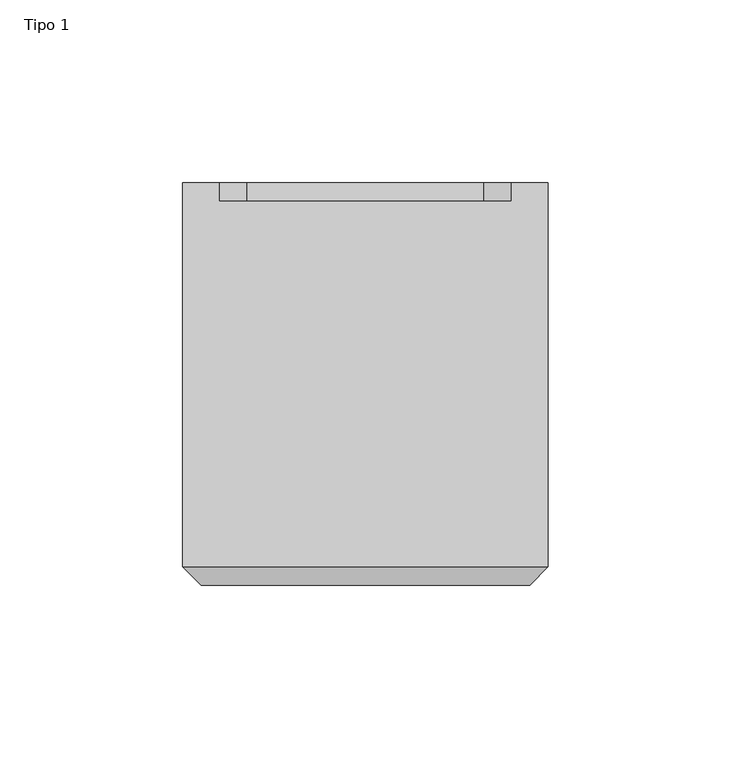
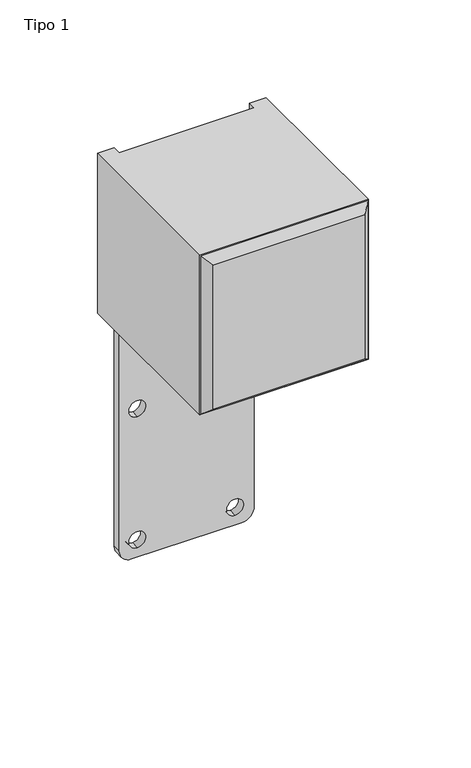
"""IFC4 building model written with IfcOpenShell, lengths in millimetres: proxy geometry, Ercole ANGOLARE verticale rovescio : Tipo 1."""

import ifcopenshell
import ifcopenshell.guid

model = None  # the IFC model being written
_history = None  # IfcOwnerHistory: only IFC2X3 demands one
_inside = {}  # id of a spatial element -> (the spatial element, [elements in it])
_under = {}  # id of a project, library or spatial element -> (it, [spatial elements below it])
_declared = {}  # id of a project -> (the project, [libraries it declares])
_typed = {}  # id of a type object -> (the type object, [elements of that type])
_made_of = {}  # id of a material, layer set ... -> (it, [elements and type objects made of it])


def new_model(schema):
    """Start an empty IFC model of exactly this schema.

    Asked for "IFC4X3", IfcOpenShell would pick the latest addendum, in which some entities
    have other attributes; the version numbers below select the first issue.
    IFC2X3 requires an IfcOwnerHistory on every rooted entity: one is made here for all.
    """
    global model, _history
    if schema == "IFC4X3":
        model = ifcopenshell.file(schema_version=(4, 3, 0, 0))
    else:
        model = ifcopenshell.file(schema=schema)
    _inside.clear()
    _under.clear()
    _declared.clear()
    _typed.clear()
    _made_of.clear()
    _history = None
    if model.schema == "IFC2X3":
        org = make("IfcOrganization", Name="unknown")
        user = make(
            "IfcPersonAndOrganization",
            ThePerson=make("IfcPerson", FamilyName="unknown"),
            TheOrganization=org,
        )
        app = make(
            "IfcApplication",
            ApplicationDeveloper=org,
            Version="unknown",
            ApplicationFullName="unknown",
            ApplicationIdentifier="unknown",
        )
        _history = make(
            "IfcOwnerHistory",
            OwningUser=user,
            OwningApplication=app,
            ChangeAction="ADDED",
            CreationDate=0,
        )
    return model


def make(cls, **values):
    """One entity of the class cls with the attributes given. An attribute that is None is left unset."""
    return model.create_entity(
        cls, **{name: value for name, value in values.items() if value is not None}
    )


def rooted(cls, **values):
    """An entity with a GlobalId (a new one), such as an element, a storey or a relation."""
    return make(cls, GlobalId=ifcopenshell.guid.new(), OwnerHistory=_history, **values)


def si_unit(unit_type, name, prefix=None):
    """IfcSIUnit, for example si_unit("LENGTHUNIT", "METRE", prefix="MILLI")."""
    return make("IfcSIUnit", UnitType=unit_type, Prefix=prefix, Name=name)


def assignment(units):
    """IfcUnitAssignment: the units of a project."""
    return None if units is None else make("IfcUnitAssignment", Units=units)


def point(xyz):
    """IfcCartesianPoint."""
    return None if xyz is None else make("IfcCartesianPoint", Coordinates=xyz)


def direction(xyz):
    """IfcDirection."""
    return None if xyz is None else make("IfcDirection", DirectionRatios=xyz)


def frame(location, z_axis=None, x_axis=None):
    """IfcAxis2Placement3D, a coordinate frame: its origin and axes. An axis left out is left unset."""
    return make(
        "IfcAxis2Placement3D",
        Location=point(location),
        Axis=direction(z_axis),
        RefDirection=direction(x_axis),
    )


def frame_2d(location, x_axis=None):
    """IfcAxis2Placement2D, a coordinate frame in the plane: its origin and x axis."""
    return make(
        "IfcAxis2Placement2D", Location=point(location), RefDirection=direction(x_axis)
    )


def origin():
    """The frame at (0, 0, 0) with its axes left unset."""
    return frame((0.0, 0.0, 0.0))


def place(relative_to, where):
    """IfcLocalPlacement: puts the frame where relative to a parent placement (None: the world)."""
    return make(
        "IfcLocalPlacement", PlacementRelTo=relative_to, RelativePlacement=where
    )


def context(
    kind, dimensions, precision=None, world=None, true_north=None, identifier=None
):
    """IfcGeometricRepresentationContext, for example the 3D "Model" context."""
    return make(
        "IfcGeometricRepresentationContext",
        ContextIdentifier=identifier,
        ContextType=kind,
        CoordinateSpaceDimension=dimensions,
        Precision=precision,
        WorldCoordinateSystem=world,
        TrueNorth=true_north,
    )


def project(units=None, contexts=None):
    """IfcProject with its units and contexts."""
    return rooted(
        "IfcProject",
        Name="project",
        RepresentationContexts=contexts,
        UnitsInContext=assignment(units),
    )


def spatial(cls, under=None, at=None, **own):
    """A site, building, storey or space (cls), placed at a placement, below another one or the project."""
    s = rooted(cls, ObjectPlacement=at, **own)
    if under is not None:
        _under.setdefault(under.id(), (under, []))[1].append(s)
    return s


def polyline(points):
    """IfcPolyline through the points."""
    return make("IfcPolyline", Points=[point(p) for p in points])


def circle_curve(where, radius):
    """IfcCircle in the frame where."""
    return make("IfcCircle", Position=where, Radius=radius)


def trimmed(basis, trim1, trim2, sense, master):
    """IfcTrimmedCurve: the piece of a basis curve between two trims."""
    return make(
        "IfcTrimmedCurve",
        BasisCurve=basis,
        Trim1=trim1,
        Trim2=trim2,
        SenseAgreement=sense,
        MasterRepresentation=master,
    )


def segment(curve, same_sense, transition):
    """IfcCompositeCurveSegment."""
    return make(
        "IfcCompositeCurveSegment",
        Transition=transition,
        SameSense=same_sense,
        ParentCurve=curve,
    )


def composite_curve(segments, self_intersect=None):
    """IfcCompositeCurve: segments joined end to end."""
    return make("IfcCompositeCurve", Segments=segments, SelfIntersect=self_intersect)


def outline(outer, holes=None, kind="AREA"):
    """IfcArbitraryClosedProfileDef: a profile drawn as a closed curve; with holes, ...WithVoids."""
    if holes is None:
        return make("IfcArbitraryClosedProfileDef", ProfileType=kind, OuterCurve=outer)
    return make(
        "IfcArbitraryProfileDefWithVoids",
        ProfileType=kind,
        OuterCurve=outer,
        InnerCurves=holes,
    )


def extrude(swept, where, along, depth):
    """IfcExtrudedAreaSolid: the profile swept, set in the frame where, extruded along a direction by depth."""
    return make(
        "IfcExtrudedAreaSolid",
        SweptArea=swept,
        Position=where,
        ExtrudedDirection=direction(along),
        Depth=depth,
    )


def faces_of(points, faces, orient=None, outer=None):
    """IfcFace entities. A face is a list of loops; a loop is a list of indices into points, from 0.

    orient and outer hold one flag for each loop. By default every Orientation is true, the
    first loop of a face is its IfcFaceOuterBound and the others are IfcFaceBound.
    """
    made = []
    for i, loops in enumerate(faces):
        bounds = []
        for j, loop in enumerate(loops):
            is_outer = j == 0 if outer is None else outer[i][j]
            bounds.append(
                make(
                    "IfcFaceOuterBound" if is_outer else "IfcFaceBound",
                    Bound=make("IfcPolyLoop", Polygon=[points[k] for k in loop]),
                    Orientation=True if orient is None else orient[i][j],
                )
            )
        made.append(make("IfcFace", Bounds=bounds))
    return made


def faceted_brep(points, faces, orient=None, outer=None, voids=None):
    """IfcFacetedBrep: a solid bounded by flat faces; with voids (closed shells), ...WithVoids."""
    shared = [point(p) for p in points]
    hull = make("IfcClosedShell", CfsFaces=faces_of(shared, faces, orient, outer))
    if voids is None:
        return make("IfcFacetedBrep", Outer=hull)
    return make(
        "IfcFacetedBrepWithVoids",
        Outer=hull,
        Voids=[
            make(cls, CfsFaces=faces_of(shared, fs, o, b)) for cls, fs, o, b in voids
        ],
    )


def shape(context_of_items, identifier, shape_type, items):
    """IfcShapeRepresentation: the items that make up one representation, for example the "Body"."""
    return make(
        "IfcShapeRepresentation",
        ContextOfItems=context_of_items,
        RepresentationIdentifier=identifier,
        RepresentationType=shape_type,
        Items=items,
    )


def source(mapping_origin, context_of_items, identifier, shape_type, items):
    """IfcRepresentationMap: a shape defined once, which mapped items show again and again."""
    return make(
        "IfcRepresentationMap",
        MappingOrigin=mapping_origin,
        MappedRepresentation=shape(context_of_items, identifier, shape_type, items),
    )


def transform(
    local_origin,
    x_axis=None,
    y_axis=None,
    z_axis=None,
    scale=None,
    scale2=None,
    scale3=None,
    uniform=True,
):
    """IfcCartesianTransformationOperator3D, or its non-uniform kind. x_axis, y_axis, z_axis: its Axis1, 2, 3."""
    if uniform:
        return make(
            "IfcCartesianTransformationOperator3D",
            Axis1=direction(x_axis),
            Axis2=direction(y_axis),
            LocalOrigin=point(local_origin),
            Scale=scale,
            Axis3=direction(z_axis),
        )
    return make(
        "IfcCartesianTransformationOperator3DnonUniform",
        Axis1=direction(x_axis),
        Axis2=direction(y_axis),
        LocalOrigin=point(local_origin),
        Scale=scale,
        Axis3=direction(z_axis),
        Scale2=scale2,
        Scale3=scale3,
    )


def mapped(mapping_source, mapping_target):
    """IfcMappedItem: shows the shape of a source again, moved by a transform."""
    return make(
        "IfcMappedItem", MappingSource=mapping_source, MappingTarget=mapping_target
    )


def made_of(thing, what):
    """Note that an element or type object is made of a material, layer set ...; save() writes the relation."""
    if what is not None:
        _made_of.setdefault(what.id(), (what, []))[1].append(thing)
    return thing


def element(
    cls,
    number,
    at=None,
    inside=None,
    cuts=None,
    type_object=None,
    material=None,
    context=None,
    identifier="Body",
    shape_type=None,
    held_by="IfcProductDefinitionShape",
    body=None,
    shapes=None,
    **own,
):
    """One element of the class cls, such as IfcWall. Its Tag is "e" and its number.

    at: its placement. inside: the storey or other place that contains it. cuts: it is an
    opening in that element (IfcRelVoidsElement). A single representation is given by context,
    identifier, shape_type and body (its items); several are given by shapes. held_by: the class
    of the entity that holds the representations. save() writes the other relations.
    """
    e = rooted(cls, Tag="e%d" % number, ObjectPlacement=at, **own)
    if body is not None:
        shapes = [shape(context, identifier, shape_type, body)]
    if shapes is not None:
        e.Representation = make(held_by, Representations=shapes)
    if inside is not None:
        _inside.setdefault(inside.id(), (inside, []))[1].append(e)
    if cuts is not None:
        rooted(
            "IfcRelVoidsElement", RelatingBuildingElement=cuts, RelatedOpeningElement=e
        )
    if type_object is not None:
        _typed.setdefault(type_object.id(), (type_object, []))[1].append(e)
    return made_of(e, material)


def aggregate(whole, parts):
    """IfcRelAggregates: a whole, such as a stair, and the parts it consists of."""
    return rooted("IfcRelAggregates", RelatingObject=whole, RelatedObjects=parts)


def save(model, path):
    """Write the relations noted so far, then the file.

    IfcRelAggregates (storeys below a building ...), IfcRelContainedInSpatialStructure (elements
    in a storey), IfcRelDefinesByType, IfcRelAssociatesMaterial and IfcRelDeclares: one each for
    every whole, place, type object, material and project.
    """
    for whole, parts in _under.values():
        aggregate(whole, parts)
    for where, things in _inside.values():
        rooted(
            "IfcRelContainedInSpatialStructure",
            RelatedElements=things,
            RelatingStructure=where,
        )
    for kind, things in _typed.values():
        rooted("IfcRelDefinesByType", RelatedObjects=things, RelatingType=kind)
    for what, things in _made_of.values():
        rooted("IfcRelAssociatesMaterial", RelatedObjects=things, RelatingMaterial=what)
    for by, libraries in _declared.values():
        rooted("IfcRelDeclares", RelatingContext=by, RelatedDefinitions=libraries)
    model.write(path)


def tipo_1_62a81992(model_context):
    return source(origin(), model_context, "Body", "SolidModel", [
        extrude(outline(polyline([(175.0, -175.0), (75.0, -175.0), (75.0, -70.0), (85.0000271, -70.0), (85.0000271, -75.0), (164.9999729, -75.0), (164.9999729, -70.0), (175.0, -70.0), (175.0, -175.0)])), frame((0.0, 0.0, 629.7029033), z_axis=(0.0, 0.0, 1.0), x_axis=(1.0, 0.0, 0.0)), (0.0, 0.0, 1.0), 100.0),
        faceted_brep([(80.0, -180.0, 634.7029033), (170.0, -180.0, 634.7029033), (170.0, -180.0, 724.7029033), (80.0, -180.0, 724.7029033), (75.0, -175.0, 629.7029033), (75.0, -175.0, 729.7029033), (175.0, -175.0, 729.7029033), (175.0, -175.0, 629.7029033)], [[[0, 1, 2, 3]], [[4, 5, 6, 7]], [[5, 4, 0, 3]], [[6, 5, 3, 2]], [[7, 6, 2, 1]], [[4, 7, 1, 0]]]),
        extrude(outline(composite_curve([segment(polyline([(722.7917489, 157.4999729), (722.7917489, 92.5000271)]), True, "CONTINUOUS"), segment(trimmed(circle_curve(frame_2d((715.2917489, 92.5000271)), 7.5), [point((722.7917489, 92.5000271))], [point((715.2917489, 85.0000271))], False, "CARTESIAN"), True, "CONTINUOUS"), segment(polyline([(715.2917489, 85.0000271), (480.2921784, 85.0000271)]), True, "CONTINUOUS"), segment(trimmed(circle_curve(frame_2d((480.2921784, 92.5000271)), 7.5), [point((480.2921784, 85.0000271))], [point((472.7921784, 92.5000271))], False, "CARTESIAN"), True, "CONTINUOUS"), segment(polyline([(472.7921784, 92.5000271), (472.7921784, 157.4999729)]), True, "CONTINUOUS"), segment(trimmed(circle_curve(frame_2d((480.2921784, 157.4999729)), 7.5), [point((472.7921784, 157.4999729))], [point((480.2921784, 164.9999729))], False, "CARTESIAN"), True, "CONTINUOUS"), segment(polyline([(480.2921784, 164.9999729), (715.2917489, 164.9999729)]), True, "CONTINUOUS"), segment(trimmed(circle_curve(frame_2d((715.2917489, 157.4999729)), 7.5), [point((715.2917489, 164.9999729))], [point((722.7917489, 157.4999729))], False, "CARTESIAN"), True, "CONTINUOUS")], self_intersect=False), holes=[composite_curve([segment(trimmed(circle_curve(frame_2d((565.7816057, 153.7547795)), 5.0), [point((570.7816057, 153.7547795))], [point((560.7816057, 153.7547795))], True, "CARTESIAN"), True, "CONTINUOUS"), segment(trimmed(circle_curve(frame_2d((565.7816057, 153.7547795)), 5.0), [point((560.7816057, 153.7547795))], [point((570.7816057, 153.7547795))], True, "CARTESIAN"), True, "CONTINUOUS")], self_intersect=False), composite_curve([segment(trimmed(circle_curve(frame_2d((565.7860258, 95.7545128)), 5.0), [point((570.7860258, 95.7545128))], [point((560.7860258, 95.7545128))], True, "CARTESIAN"), True, "CONTINUOUS"), segment(trimmed(circle_curve(frame_2d((565.7860258, 95.7545128)), 5.0), [point((560.7860258, 95.7545128))], [point((570.7860258, 95.7545128))], True, "CARTESIAN"), True, "CONTINUOUS")], self_intersect=False), composite_curve([segment(trimmed(circle_curve(frame_2d((701.7029033, 102.999984)), 3.5), [point((698.2029033, 102.999984))], [point((705.2029033, 102.999984))], True, "CARTESIAN"), True, "CONTINUOUS"), segment(trimmed(circle_curve(frame_2d((701.7029033, 102.999984)), 3.5), [point((705.2029033, 102.999984))], [point((698.2029033, 102.999984))], True, "CARTESIAN"), True, "CONTINUOUS")], self_intersect=False), composite_curve([segment(trimmed(circle_curve(frame_2d((701.7028554, 146.9996985)), 3.5), [point((698.2028554, 146.9996985))], [point((705.2028554, 146.9996985))], True, "CARTESIAN"), True, "CONTINUOUS"), segment(trimmed(circle_curve(frame_2d((701.7028554, 146.9996985)), 3.5), [point((705.2028554, 146.9996985))], [point((698.2028554, 146.9996985))], True, "CARTESIAN"), True, "CONTINUOUS")], self_intersect=False), composite_curve([segment(trimmed(circle_curve(frame_2d((657.7029033, 102.999984)), 3.5), [point((661.2029033, 102.999984))], [point((654.2029033, 102.999984))], True, "CARTESIAN"), True, "CONTINUOUS"), segment(trimmed(circle_curve(frame_2d((657.7029033, 102.999984)), 3.5), [point((654.2029033, 102.999984))], [point((661.2029033, 102.999984))], True, "CARTESIAN"), True, "CONTINUOUS")], self_intersect=False), composite_curve([segment(trimmed(circle_curve(frame_2d((657.7028554, 146.9996985)), 3.5), [point((654.2028554, 146.9996985))], [point((661.2028554, 146.9996985))], True, "CARTESIAN"), True, "CONTINUOUS"), segment(trimmed(circle_curve(frame_2d((657.7028554, 146.9996985)), 3.5), [point((661.2028554, 146.9996985))], [point((654.2028554, 146.9996985))], True, "CARTESIAN"), True, "CONTINUOUS")], self_intersect=False), composite_curve([segment(trimmed(circle_curve(frame_2d((483.7920491, 95.7545349)), 5.0), [point((488.7920491, 95.7545349))], [point((478.7920491, 95.7545349))], True, "CARTESIAN"), True, "CONTINUOUS"), segment(trimmed(circle_curve(frame_2d((483.7920491, 95.7545349)), 5.0), [point((478.7920491, 95.7545349))], [point((488.7920491, 95.7545349))], True, "CARTESIAN"), True, "CONTINUOUS")], self_intersect=False), composite_curve([segment(trimmed(circle_curve(frame_2d((483.7964692, 153.7548016)), 5.0), [point((478.7964692, 153.7548016))], [point((488.7964692, 153.7548016))], True, "CARTESIAN"), True, "CONTINUOUS"), segment(trimmed(circle_curve(frame_2d((483.7964692, 153.7548016)), 5.0), [point((488.7964692, 153.7548016))], [point((478.7964692, 153.7548016))], True, "CARTESIAN"), True, "CONTINUOUS")], self_intersect=False)]), frame((0.0, -75.0, 0.0), z_axis=(0.0, 1.0, 0.0), x_axis=(0.0, 0.0, 1.0)), (0.0, 0.0, 1.0), 5.0),
    ])


if __name__ == "__main__":
    model = new_model("IFC4")
    model_context = context("Model", 3, world=origin())
    ifc_project = project(units=[si_unit("LENGTHUNIT", "METRE", prefix="MILLI")], contexts=[model_context])
    site = spatial("IfcSite", under=ifc_project)
    building = spatial("IfcBuilding", under=site)
    placement = place(None, origin())
    tipo_1_shape = tipo_1_62a81992(model_context)
    element("IfcBuildingElementProxy", 1, Name="Ercole ANGOLARE verticale rovescio : Tipo 1", ObjectType="Ercole ANGOLARE verticale rovescio : Tipo 1", at=placement, inside=building, context=model_context, shape_type="MappedRepresentation", body=[
        mapped(tipo_1_shape, transform((0.0, 0.0, 0.0), x_axis=(1.0, 0.0, 0.0), y_axis=(0.0, 1.0, 0.0), z_axis=(0.0, 0.0, 1.0))),
    ])
    save(model, "model.ifc")
